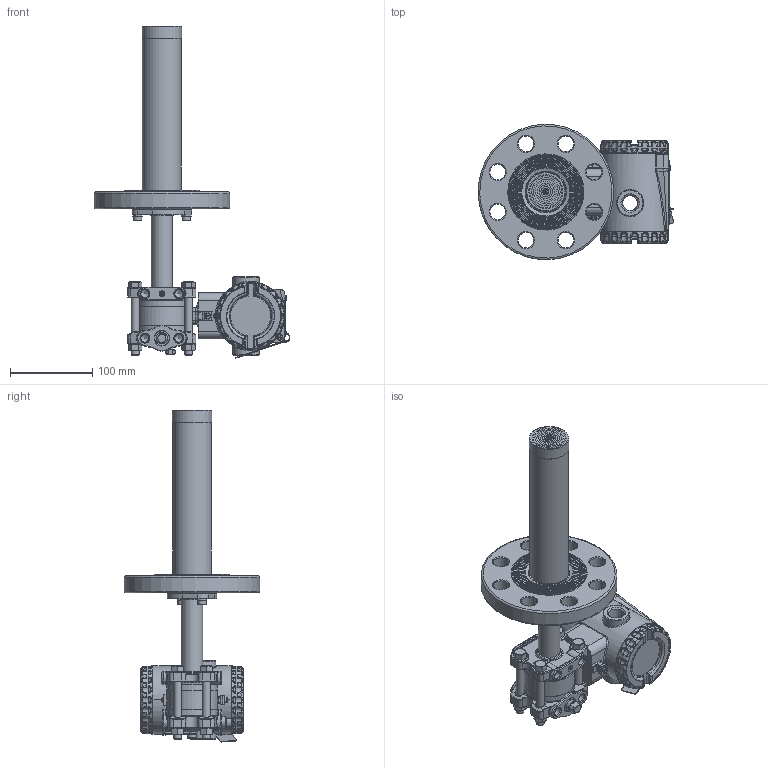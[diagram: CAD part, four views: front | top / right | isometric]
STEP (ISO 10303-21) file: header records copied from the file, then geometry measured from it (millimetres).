
FILE_DESCRIPTION(/* description */ (''),/* implementation_level */ '2;1');
FILE_NAME(/* name */ 'F:\Area\Desenvolvimento_2\Projects\Sensor\projetos\LD400-3d\dimensionais 3D clientes\LD400L\LD400L 2-300 RF ext 200 ref 1-4NPT purga acima.stp',/* time_stamp */ '2023-02-23T15:29:36-03:00',/* author */ ('inventor02'),/* organization */ (''),/* preprocessor_version */ 'ST-DEVELOPER v17',/* originating_system */ 'Autodesk Inventor 2019',/* authorisation */ '');
FILE_SCHEMA (('CONFIG_CONTROL_DESIGN'));
Products named in the file (41): LD30XL 2-300 RF ext 200 ref 1-4NPT purga acima; 204-0301-L-2 300 RF ext 200 purga acima; nivel fx3 com baixa diferencial 1-4NPT purga acima; involucro fx0-3 apos a usinagem final; flange diferencial std purga; 101-C-7484-01 flange selo nivel VR; 201-A-0504-tubo união teste 1; bujao 1-4NPT; Sangria; Porca 3-8 x 16 UNC; Paraf. 3-8 x 16 UNC; adaptação tubo x flanges 1-1-2 a 4pol; 101-B-0161-anel cortado do tubo - teste1; 101-B-0162-flange fixação tubo; ANSI B18.3.1M - M6x1 x 16; DIN 127 - A 6; flange 2 300 ext 200; 101-C-0117-10; 101-B-7700-01-200; 101-B-0168-11; Carcaça 400 com tampas e plaqueta sem letras; 101-D-0845-05 carcaça LD400 sem letras; 101-B-3614-03-tampa 400 sem letras; Tampa visor 400 montada sem letras; 101-B-3612-05 tampa visor 400 sem letras; 101-A-6107; oring 2034; 00034775-0; WHW_250; DIN 915 - M6 x 10; Chapa aterramento externo; 201-A-1771-02 inserto terra recartilhado; AS 1969 - ST4,2; ISO 1207 - M4 x 8; ANSI B18.3.1M - M4x0,7 x 8; Subconjunto plaqueta 400; plaqueta 400 em branco; Parafuso da Plaqueta; Rebite da Plaqueta; 096-A-0169-03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
Assembly tree (50 placements, depth 4):
  LD30XL 2-300 RF ext 200 ref 1-4NPT purga acima
    204-0301-L-2 300 RF ext 200 purga acima
      nivel fx3 com baixa diferencial 1-4NPT purga acima
        involucro fx0-3 apos a usinagem final
        flange diferencial std purga
        101-C-7484-01 flange selo nivel VR
        201-A-0504-tubo união teste 1
        DIN 915 - M6 x 10
        bujao 1-4NPT
        Sangria
        Porca 3-8 x 16 UNC  x4
        Paraf. 3-8 x 16 UNC  x4
      adaptação tubo x flanges 1-1-2 a 4pol
        101-B-0161-anel cortado do tubo - teste1
        101-B-0162-flange fixação tubo
        ANSI B18.3.1M - M6x1 x 16  x2
        DIN 127 - A 6  x2
      flange 2 300 ext 200
        101-C-0117-10
        101-B-7700-01-200
        101-B-0168-11
    Carcaça 400 com tampas e plaqueta sem letras
      101-D-0845-05 carcaça LD400 sem letras
      101-B-3614-03-tampa 400 sem letras
      Tampa visor 400 montada sem letras
        101-B-3612-05 tampa visor 400 sem letras
        101-A-6107
        oring 2034
        00034775-0
        WHW_250
      DIN 915 - M6 x 10
      Chapa aterramento externo
      201-A-1771-02 inserto terra recartilhado
      AS 1969 - ST4,2
      ISO 1207 - M4 x 8
      ANSI B18.3.1M - M4x0,7 x 8  x2
      Subconjunto plaqueta 400
        plaqueta 400 em branco
        Parafuso da Plaqueta
        Rebite da Plaqueta
        096-A-0169-03
        101-A-0502-01
Bounding box: 238.17 x 164.84 x 404.12 mm (x, y, z)
Volume: 1140531 mm3; surface area: 378288.2 mm2
Topology: 43 solids, 43 shells, 2791 faces, 6761 edges, 4060 vertices
Faces by surface type: plane 730, cylinder 668, bspline 604, torus 483, cone 230, sphere 76
Full cylindrical faces by diameter (mm): 2 x4, 2.1 x1, 2.2 x1, 2.459 x3, 2.5 x1, 2.7 x1, 2.8 x1, 3 x4, 3.242 x3, 3.5 x1, 3.571 x1, 4 x5, 4.3 x2, 4.4 x1, 4.917 x4, 5 x1, 5.5 x3, 6 x6, 6.1 x2, 6.2 x1, 6.647 x1, 7 x5, 7.6 x2, 7.798 x4, 8 x1, 9.525 x4, 9.728 x6, 10 x2, 10.5 x8, 10.719 x2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
Entity records: 99334 total; most frequent: CARTESIAN_POINT 37174, DIRECTION 12836, ORIENTED_EDGE 12762, EDGE_CURVE 6381, AXIS2_PLACEMENT_3D 5501, VERTEX_POINT 3866, CIRCLE 3197, EDGE_LOOP 2843
